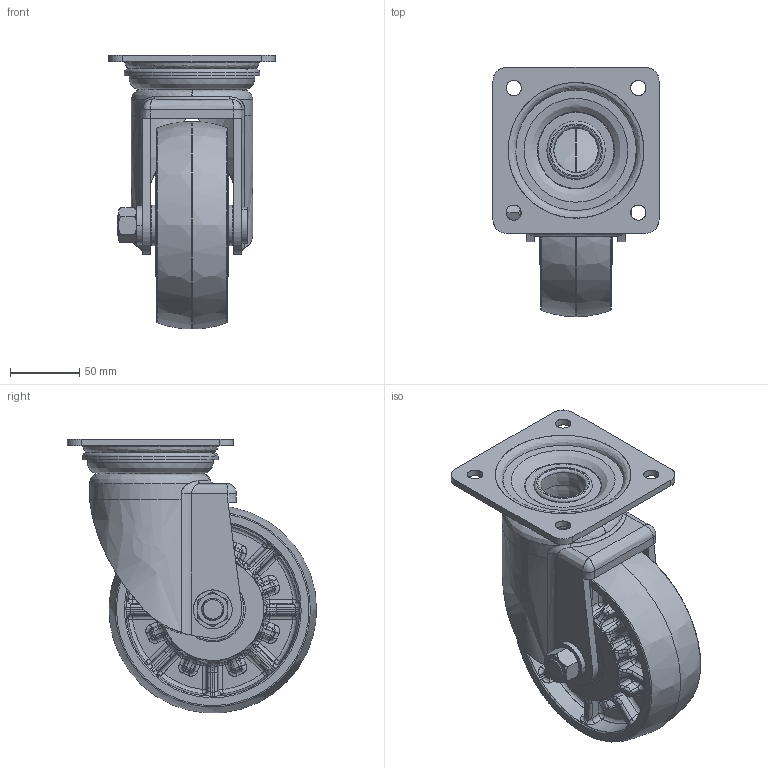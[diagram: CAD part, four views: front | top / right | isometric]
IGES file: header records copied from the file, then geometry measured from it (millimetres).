
Start section: JAMA-IS VERSION  1.0
Global section: file name: E:\tools-models\その他メーカー2\INOAC車輪\5月\HE-150WJ\HE-150WJ-ALL.igs; native system: CAM-TOOL; preprocessor: C3out Version 11.1.1.50212 (2015/02/12); author: NONE; organization: NONE; date: 210528.115203; units: millimetre
Bounding box: 120 x 179.99 x 197.85 mm (x, y, z)
Surface area: 234087.2 mm2 (no closed solid volume)
Topology: 0 solids, 0 shells, 1339 faces, 10110 edges, 9877 vertices
Faces by surface type: bspline 1339
